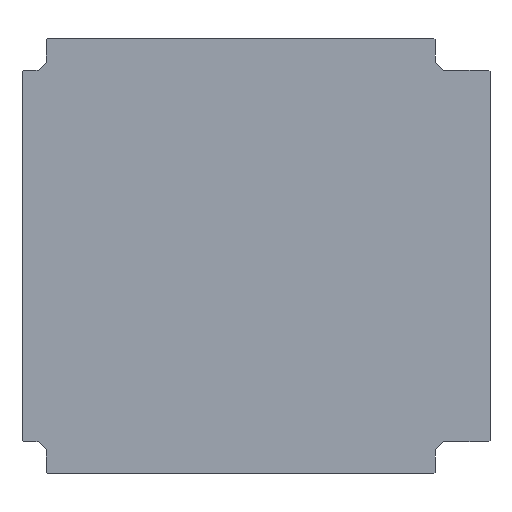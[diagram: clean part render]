
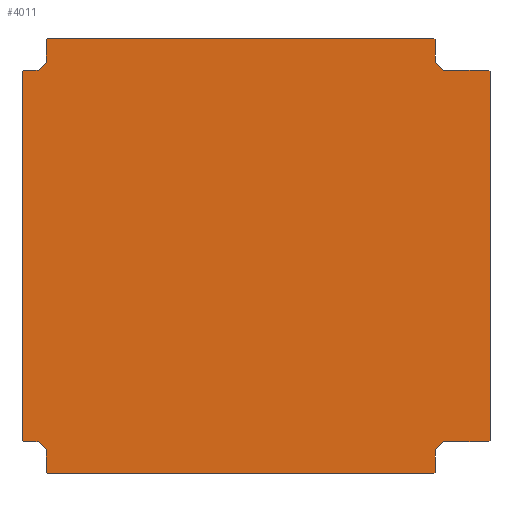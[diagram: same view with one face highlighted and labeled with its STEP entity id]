
A CAD part, front view. The second image highlights one B-rep face of the part: STEP entity #4011.
In plain terms, the highlighted planar face has unit normal (0, -1, 0) as drawn and (0, 0, 1) by its records, which use the part's own axes.
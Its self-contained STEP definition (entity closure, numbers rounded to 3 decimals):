
#1121=CARTESIAN_POINT(' ',(308.5,231.5,0.));
#1126=DIRECTION(' ',(-1.,0.,0.));
#1131=VECTOR(' ',#1126,1.);
#1136=LINE('',#1121,#1131);
#1141=CARTESIAN_POINT(' ',(308.5,231.5,0.));
#1142=VERTEX_POINT(' ',#1141);
#1146=CARTESIAN_POINT(' ',(252.5,231.5,0.));
#1147=VERTEX_POINT(' ',#1146);
#1151=EDGE_CURVE(' ',#1142,#1147,#1136,.T.);
#1276=CARTESIAN_POINT(' ',(310.5,229.5,0.));
#1281=DIRECTION(' ',(-0.707,0.707,0.));
#1286=VECTOR(' ',#1281,1.);
#1291=LINE('',#1276,#1286);
#1296=CARTESIAN_POINT(' ',(310.5,229.5,0.));
#1297=VERTEX_POINT(' ',#1296);
#1301=EDGE_CURVE(' ',#1297,#1142,#1291,.T.);
#1391=CARTESIAN_POINT(' ',(310.5,-229.5,0.));
#1396=DIRECTION(' ',(0.,1.,0.));
#1401=VECTOR(' ',#1396,1.);
#1406=LINE('',#1391,#1401);
#1411=CARTESIAN_POINT(' ',(310.5,-229.5,0.));
#1412=VERTEX_POINT(' ',#1411);
#1416=EDGE_CURVE(' ',#1412,#1297,#1406,.T.);
#1506=CARTESIAN_POINT(' ',(308.5,-231.5,0.));
#1511=DIRECTION(' ',(0.707,0.707,0.));
#1516=VECTOR(' ',#1511,1.);
#1521=LINE('',#1506,#1516);
#1526=CARTESIAN_POINT(' ',(308.5,-231.5,0.));
#1527=VERTEX_POINT(' ',#1526);
#1531=EDGE_CURVE(' ',#1527,#1412,#1521,.T.);
#1621=CARTESIAN_POINT(' ',(252.5,-231.5,0.));
#1626=DIRECTION(' ',(1.,0.,0.));
#1631=VECTOR(' ',#1626,1.);
#1636=LINE('',#1621,#1631);
#1641=CARTESIAN_POINT(' ',(252.5,-231.5,0.));
#1642=VERTEX_POINT(' ',#1641);
#1646=EDGE_CURVE(' ',#1642,#1527,#1636,.T.);
#1726=CARTESIAN_POINT(' ',(242.5,-241.5,0.));
#1731=DIRECTION(' ',(0.707,0.707,0.));
#1736=VECTOR(' ',#1731,1.);
#1741=LINE('',#1726,#1736);
#1746=CARTESIAN_POINT(' ',(242.5,-241.5,0.));
#1747=VERTEX_POINT(' ',#1746);
#1751=EDGE_CURVE(' ',#1747,#1642,#1741,.T.);
#1841=CARTESIAN_POINT(' ',(242.5,-269.5,0.));
#1846=DIRECTION(' ',(0.,1.,0.));
#1851=VECTOR(' ',#1846,1.);
#1856=LINE('',#1841,#1851);
#1861=CARTESIAN_POINT(' ',(242.5,-269.5,0.));
#1862=VERTEX_POINT(' ',#1861);
#1866=EDGE_CURVE(' ',#1862,#1747,#1856,.T.);
#1956=CARTESIAN_POINT(' ',(240.5,-271.5,0.));
#1961=DIRECTION(' ',(0.707,0.707,0.));
#1966=VECTOR(' ',#1961,1.);
#1971=LINE('',#1956,#1966);
#1976=CARTESIAN_POINT(' ',(240.5,-271.5,0.));
#1977=VERTEX_POINT(' ',#1976);
#1981=EDGE_CURVE(' ',#1977,#1862,#1971,.T.);
#2081=CARTESIAN_POINT(' ',(-240.5,-271.5,0.));
#2086=DIRECTION(' ',(1.,0.,0.));
#2091=VECTOR(' ',#2086,1.);
#2096=LINE('',#2081,#2091);
#2101=CARTESIAN_POINT(' ',(-240.5,-271.5,0.));
#2102=VERTEX_POINT(' ',#2101);
#2106=EDGE_CURVE(' ',#2102,#1977,#2096,.T.);
#2186=CARTESIAN_POINT(' ',(-242.5,-269.5,0.));
#2191=DIRECTION(' ',(0.707,-0.707,0.));
#2196=VECTOR(' ',#2191,1.);
#2201=LINE('',#2186,#2196);
#2206=CARTESIAN_POINT(' ',(-242.5,-269.5,0.));
#2207=VERTEX_POINT(' ',#2206);
#2211=EDGE_CURVE(' ',#2207,#2102,#2201,.T.);
#2311=CARTESIAN_POINT(' ',(-242.5,-241.5,0.));
#2316=DIRECTION(' ',(0.,-1.,0.));
#2321=VECTOR(' ',#2316,1.);
#2326=LINE('',#2311,#2321);
#2331=CARTESIAN_POINT(' ',(-242.5,-241.5,0.));
#2332=VERTEX_POINT(' ',#2331);
#2336=EDGE_CURVE(' ',#2332,#2207,#2326,.T.);
#2416=CARTESIAN_POINT(' ',(-252.5,-231.5,0.));
#2421=DIRECTION(' ',(0.707,-0.707,0.));
#2426=VECTOR(' ',#2421,1.);
#2431=LINE('',#2416,#2426);
#2436=CARTESIAN_POINT(' ',(-252.5,-231.5,0.));
#2437=VERTEX_POINT(' ',#2436);
#2441=EDGE_CURVE(' ',#2437,#2332,#2431,.T.);
#2531=CARTESIAN_POINT(' ',(-270.5,-231.5,0.));
#2536=DIRECTION(' ',(1.,0.,0.));
#2541=VECTOR(' ',#2536,1.);
#2546=LINE('',#2531,#2541);
#2551=CARTESIAN_POINT(' ',(-270.5,-231.5,0.));
#2552=VERTEX_POINT(' ',#2551);
#2556=EDGE_CURVE(' ',#2552,#2437,#2546,.T.);
#2646=CARTESIAN_POINT(' ',(-272.5,-229.5,0.));
#2651=DIRECTION(' ',(0.707,-0.707,0.));
#2656=VECTOR(' ',#2651,1.);
#2661=LINE('',#2646,#2656);
#2666=CARTESIAN_POINT(' ',(-272.5,-229.5,0.));
#2667=VERTEX_POINT(' ',#2666);
#2671=EDGE_CURVE(' ',#2667,#2552,#2661,.T.);
#2771=CARTESIAN_POINT(' ',(-272.5,229.5,0.));
#2776=DIRECTION(' ',(0.,-1.,0.));
#2781=VECTOR(' ',#2776,1.);
#2786=LINE('',#2771,#2781);
#2791=CARTESIAN_POINT(' ',(-272.5,229.5,0.));
#2792=VERTEX_POINT(' ',#2791);
#2796=EDGE_CURVE(' ',#2792,#2667,#2786,.T.);
#2876=CARTESIAN_POINT(' ',(-270.5,231.5,0.));
#2881=DIRECTION(' ',(-0.707,-0.707,0.));
#2886=VECTOR(' ',#2881,1.);
#2891=LINE('',#2876,#2886);
#2896=CARTESIAN_POINT(' ',(-270.5,231.5,0.));
#2897=VERTEX_POINT(' ',#2896);
#2901=EDGE_CURVE(' ',#2897,#2792,#2891,.T.);
#3001=CARTESIAN_POINT(' ',(-252.5,231.5,0.));
#3006=DIRECTION(' ',(-1.,0.,0.));
#3011=VECTOR(' ',#3006,1.);
#3016=LINE('',#3001,#3011);
#3021=CARTESIAN_POINT(' ',(-252.5,231.5,0.));
#3022=VERTEX_POINT(' ',#3021);
#3026=EDGE_CURVE(' ',#3022,#2897,#3016,.T.);
#3106=CARTESIAN_POINT(' ',(-242.5,241.5,0.));
#3111=DIRECTION(' ',(-0.707,-0.707,0.));
#3116=VECTOR(' ',#3111,1.);
#3121=LINE('',#3106,#3116);
#3126=CARTESIAN_POINT(' ',(-242.5,241.5,0.));
#3127=VERTEX_POINT(' ',#3126);
#3131=EDGE_CURVE(' ',#3127,#3022,#3121,.T.);
#3221=CARTESIAN_POINT(' ',(-242.5,269.5,0.));
#3226=DIRECTION(' ',(0.,-1.,0.));
#3231=VECTOR(' ',#3226,1.);
#3236=LINE('',#3221,#3231);
#3241=CARTESIAN_POINT(' ',(-242.5,269.5,0.));
#3242=VERTEX_POINT(' ',#3241);
#3246=EDGE_CURVE(' ',#3242,#3127,#3236,.T.);
#3336=CARTESIAN_POINT(' ',(-240.5,271.5,0.));
#3341=DIRECTION(' ',(-0.707,-0.707,0.));
#3346=VECTOR(' ',#3341,1.);
#3351=LINE('',#3336,#3346);
#3356=CARTESIAN_POINT(' ',(-240.5,271.5,0.));
#3357=VERTEX_POINT(' ',#3356);
#3361=EDGE_CURVE(' ',#3357,#3242,#3351,.T.);
#3461=CARTESIAN_POINT(' ',(240.5,271.5,0.));
#3466=DIRECTION(' ',(-1.,0.,0.));
#3471=VECTOR(' ',#3466,1.);
#3476=LINE('',#3461,#3471);
#3481=CARTESIAN_POINT(' ',(240.5,271.5,0.));
#3482=VERTEX_POINT(' ',#3481);
#3486=EDGE_CURVE(' ',#3482,#3357,#3476,.T.);
#3566=CARTESIAN_POINT(' ',(242.5,269.5,0.));
#3571=DIRECTION(' ',(-0.707,0.707,0.));
#3576=VECTOR(' ',#3571,1.);
#3581=LINE('',#3566,#3576);
#3586=CARTESIAN_POINT(' ',(242.5,269.5,0.));
#3587=VERTEX_POINT(' ',#3586);
#3591=EDGE_CURVE(' ',#3587,#3482,#3581,.T.);
#3691=CARTESIAN_POINT(' ',(242.5,241.5,0.));
#3696=DIRECTION(' ',(0.,1.,0.));
#3701=VECTOR(' ',#3696,1.);
#3706=LINE('',#3691,#3701);
#3711=CARTESIAN_POINT(' ',(242.5,241.5,0.));
#3712=VERTEX_POINT(' ',#3711);
#3716=EDGE_CURVE(' ',#3712,#3587,#3706,.T.);
#3796=CARTESIAN_POINT(' ',(252.5,231.5,0.));
#3801=DIRECTION(' ',(-0.707,0.707,0.));
#3806=VECTOR(' ',#3801,1.);
#3811=LINE('',#3796,#3806);
#3816=EDGE_CURVE(' ',#1147,#3712,#3811,.T.);
#3856=DIRECTION(' ',(-0.,-0.,1.));
#3861=CARTESIAN_POINT(' ',(310.5,-271.5,0.));
#3866=DIRECTION(' ',(0.,1.,0.));
#3871=AXIS2_PLACEMENT_3D(' ',#3861,#3856,#3866);
#3876=PLANE('NONE',#3871);
#3881=ORIENTED_EDGE(' ',*,*,#1416,.T.);
#3886=ORIENTED_EDGE(' ',*,*,#1301,.T.);
#3891=ORIENTED_EDGE(' ',*,*,#1151,.T.);
#3896=ORIENTED_EDGE(' ',*,*,#3816,.T.);
#3901=ORIENTED_EDGE(' ',*,*,#3716,.T.);
#3906=ORIENTED_EDGE(' ',*,*,#3591,.T.);
#3911=ORIENTED_EDGE(' ',*,*,#3486,.T.);
#3916=ORIENTED_EDGE(' ',*,*,#3361,.T.);
#3921=ORIENTED_EDGE(' ',*,*,#3246,.T.);
#3926=ORIENTED_EDGE(' ',*,*,#3131,.T.);
#3931=ORIENTED_EDGE(' ',*,*,#3026,.T.);
#3936=ORIENTED_EDGE(' ',*,*,#2901,.T.);
#3941=ORIENTED_EDGE(' ',*,*,#2796,.T.);
#3946=ORIENTED_EDGE(' ',*,*,#2671,.T.);
#3951=ORIENTED_EDGE(' ',*,*,#2556,.T.);
#3956=ORIENTED_EDGE(' ',*,*,#2441,.T.);
#3961=ORIENTED_EDGE(' ',*,*,#2336,.T.);
#3966=ORIENTED_EDGE(' ',*,*,#2211,.T.);
#3971=ORIENTED_EDGE(' ',*,*,#2106,.T.);
#3976=ORIENTED_EDGE(' ',*,*,#1981,.T.);
#3981=ORIENTED_EDGE(' ',*,*,#1866,.T.);
#3986=ORIENTED_EDGE(' ',*,*,#1751,.T.);
#3991=ORIENTED_EDGE(' ',*,*,#1646,.T.);
#3996=ORIENTED_EDGE(' ',*,*,#1531,.T.);
#4001=EDGE_LOOP(' ',(#3881,#3886,#3891,#3896,#3901,#3906,#3911,#3916,#3921,#3926,#3931,#3936,#3941,#3946,#3951,#3956,#3961,#3966,#3971,#3976,#3981,#3986,#3991,#3996));
#4006=FACE_OUTER_BOUND(' ',#4001,.T.);
#4011=ADVANCED_FACE('NONE',(#4006),#3876,.T.);
